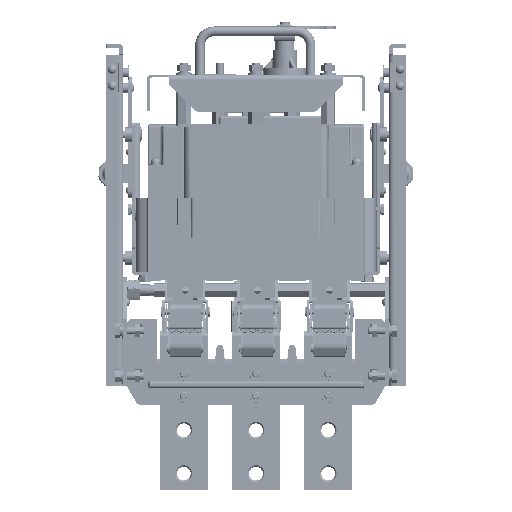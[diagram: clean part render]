
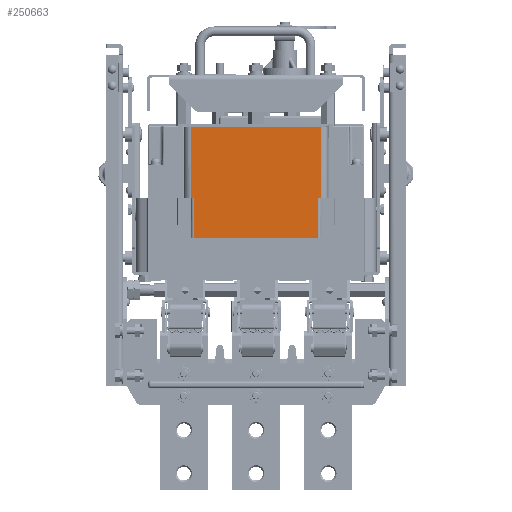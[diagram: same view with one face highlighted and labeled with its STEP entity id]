
A CAD part, front view. The second image highlights one B-rep face of the part: STEP entity #250663.
In plain terms, the highlighted planar face has unit normal (0, -1, -0.006).
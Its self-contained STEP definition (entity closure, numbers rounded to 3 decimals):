
#17670 = CARTESIAN_POINT ( 'NONE',  ( 59.002, -176.99, 134.153 ) ) ;
#17681 = CARTESIAN_POINT ( 'NONE',  ( -73.699, -177.655, 249.653 ) ) ;
#19380 = CARTESIAN_POINT ( 'NONE',  ( -70.398, -176.99, 134.153 ) ) ;
#29597 = ORIENTED_EDGE ( 'NONE', *, *, #705531, .T. ) ;
#29627 = ORIENTED_EDGE ( 'NONE', *, *, #705534, .T. ) ;
#29653 = ORIENTED_EDGE ( 'NONE', *, *, #430273, .F. ) ;
#29680 = ORIENTED_EDGE ( 'NONE', *, *, #705537, .T. ) ;
#29707 = ORIENTED_EDGE ( 'NONE', *, *, #705542, .F. ) ;
#29734 = ORIENTED_EDGE ( 'NONE', *, *, #705546, .T. ) ;
#29759 = ORIENTED_EDGE ( 'NONE', *, *, #430144, .F. ) ;
#29785 = ORIENTED_EDGE ( 'NONE', *, *, #705549, .T. ) ;
#66889 = LINE ( 'NONE', #701801, #66893 ) ;
#66893 = VECTOR ( 'NONE', #701811, 1000. ) ;
#66946 = VECTOR ( 'NONE', #702031, 1000. ) ;
#66951 = LINE ( 'NONE', #702007, #66946 ) ;
#219075 = VERTEX_POINT ( 'NONE', #17670 ) ;
#219083 = VERTEX_POINT ( 'NONE', #17681 ) ;
#220533 = VERTEX_POINT ( 'NONE', #19380 ) ;
#247839 = EDGE_LOOP ( 'NONE', ( #29597, #29627, #29653, #29680, #29707, #29734, #29759, #29785 ) ) ;
#250663 = ADVANCED_FACE ( 'NONE', ( #281666 ), #689724, .T. ) ;
#281666 = FACE_OUTER_BOUND ( 'NONE', #247839, .T. ) ;
#284984 = CARTESIAN_POINT ( 'NONE',  ( 59.002, -177.226, 175.153 ) ) ;
#285015 = CARTESIAN_POINT ( 'NONE',  ( 69.302, -176.99, 134.153 ) ) ;
#285029 = DIRECTION ( 'NONE',  ( 1., 0., 0. ) ) ;
#285036 = DIRECTION ( 'NONE',  ( 0., -0.006, 1. ) ) ;
#285049 = CARTESIAN_POINT ( 'NONE',  ( 62.302, -177.655, 249.678 ) ) ;
#285058 = DIRECTION ( 'NONE',  ( 0.004, -0.006, 1. ) ) ;
#285065 = CARTESIAN_POINT ( 'NONE',  ( 69.302, -177.655, 249.653 ) ) ;
#285076 = DIRECTION ( 'NONE',  ( 1., 0., 0. ) ) ;
#285081 = CARTESIAN_POINT ( 'NONE',  ( -73.697, -177.652, 249.139 ) ) ;
#285098 = DIRECTION ( 'NONE',  ( 0.004, 0.006, -1. ) ) ;
#285103 = CARTESIAN_POINT ( 'NONE',  ( -70.398, -176.99, 134.153 ) ) ;
#285112 = DIRECTION ( 'NONE',  ( 0., 0.006, -1. ) ) ;
#285663 = LINE ( 'NONE', #284984, #285727 ) ;
#285707 = LINE ( 'NONE', #285015, #285717 ) ;
#285717 = VECTOR ( 'NONE', #285029, 1000. ) ;
#285722 = LINE ( 'NONE', #285049, #285735 ) ;
#285727 = VECTOR ( 'NONE', #285036, 1000. ) ;
#285731 = LINE ( 'NONE', #285065, #285744 ) ;
#285735 = VECTOR ( 'NONE', #285058, 1000. ) ;
#285739 = LINE ( 'NONE', #285081, #285752 ) ;
#285744 = VECTOR ( 'NONE', #285076, 1000. ) ;
#285748 = LINE ( 'NONE', #285103, #285760 ) ;
#285752 = VECTOR ( 'NONE', #285098, 1000. ) ;
#285760 = VECTOR ( 'NONE', #285112, 1000. ) ;
#287368 = AXIS2_PLACEMENT_3D ( 'NONE', #689752, #689757, #689763 ) ;
#394387 = VERTEX_POINT ( 'NONE', #645161 ) ;
#394471 = VERTEX_POINT ( 'NONE', #645179 ) ;
#396743 = VERTEX_POINT ( 'NONE', #530640 ) ;
#396902 = VERTEX_POINT ( 'NONE', #530669 ) ;
#430144 = EDGE_CURVE ( 'NONE', #394471, #394387, #66889, .T. ) ;
#430273 = EDGE_CURVE ( 'NONE', #396902, #585735, #66951, .T. ) ;
#530640 = CARTESIAN_POINT ( 'NONE',  ( 62.302, -177.655, 249.653 ) ) ;
#530669 = CARTESIAN_POINT ( 'NONE',  ( 62.034, -177.226, 175.153 ) ) ;
#585735 = VERTEX_POINT ( 'NONE', #648725 ) ;
#645161 = CARTESIAN_POINT ( 'NONE',  ( -73.431, -177.226, 175.153 ) ) ;
#645179 = CARTESIAN_POINT ( 'NONE',  ( -70.398, -177.226, 175.153 ) ) ;
#648725 = CARTESIAN_POINT ( 'NONE',  ( 59.002, -177.226, 175.153 ) ) ;
#689724 = PLANE ( 'NONE',  #287368 ) ;
#689752 = CARTESIAN_POINT ( 'NONE',  ( 69.302, -177.655, 249.653 ) ) ;
#689757 = DIRECTION ( 'NONE',  ( 0., -1., -0.006 ) ) ;
#689763 = DIRECTION ( 'NONE',  ( 0., -0.006, 1. ) ) ;
#701801 = CARTESIAN_POINT ( 'NONE',  ( 69.302, -177.226, 175.153 ) ) ;
#701811 = DIRECTION ( 'NONE',  ( -1., 0., 0. ) ) ;
#702007 = CARTESIAN_POINT ( 'NONE',  ( 69.302, -177.226, 175.153 ) ) ;
#702031 = DIRECTION ( 'NONE',  ( -1., 0., 0. ) ) ;
#705531 = EDGE_CURVE ( 'NONE', #220533, #219075, #285707, .T. ) ;
#705534 = EDGE_CURVE ( 'NONE', #219075, #585735, #285663, .T. ) ;
#705537 = EDGE_CURVE ( 'NONE', #396902, #396743, #285722, .T. ) ;
#705542 = EDGE_CURVE ( 'NONE', #219083, #396743, #285731, .T. ) ;
#705546 = EDGE_CURVE ( 'NONE', #219083, #394387, #285739, .T. ) ;
#705549 = EDGE_CURVE ( 'NONE', #394471, #220533, #285748, .T. ) ;
